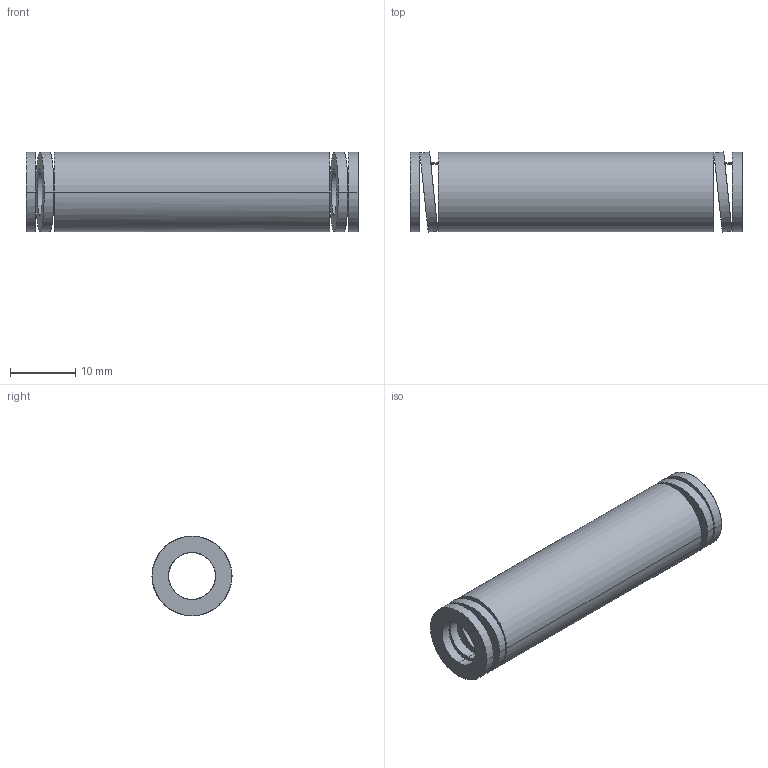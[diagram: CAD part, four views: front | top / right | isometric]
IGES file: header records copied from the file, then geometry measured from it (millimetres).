
Start section: START RECORD GO HERE.
Global section: file name: 392-B13-051.igs; native system: DASSAULT SYSTEMES CATIA V5 R20 - www.3ds.com; preprocessor: CATIA Version 5 Release 20 ; author: Utente; organization: NB04-ASUS; date: 20210812.144734; units: millimetre
Bounding box: 51 x 12.29 x 12.2 mm (x, y, z)
Surface area: 3709.7 mm2 (no closed solid volume)
Topology: 0 solids, 0 shells, 38 faces, 184 edges, 184 vertices
Faces by surface type: revolution 28, plane 10
